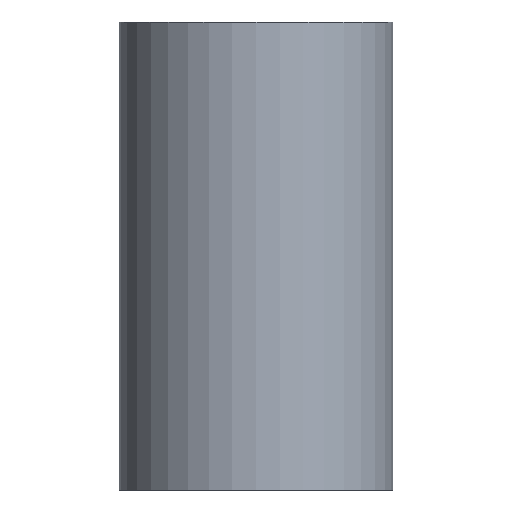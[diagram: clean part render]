
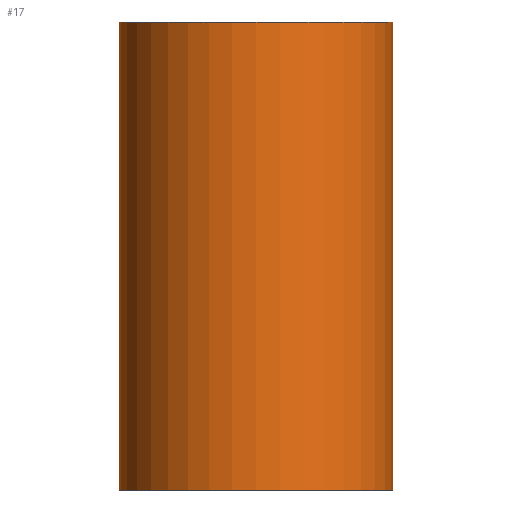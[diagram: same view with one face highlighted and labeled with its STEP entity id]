
A CAD part, front view. The second image highlights one B-rep face of the part: STEP entity #17.
In plain terms, the highlighted cylindrical face has radius 39.5 mm (diameter 79 mm), a full revolution.
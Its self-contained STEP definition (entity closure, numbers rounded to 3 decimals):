
#17 = ADVANCED_FACE('',(#18),#32,.T.);
#18 = FACE_BOUND('',#19,.F.);
#19 = EDGE_LOOP('',(#20,#50,#77,#78));
#20 = ORIENTED_EDGE('',*,*,#21,.T.);
#21 = EDGE_CURVE('',#22,#24,#26,.T.);
#22 = VERTEX_POINT('',#23);
#23 = CARTESIAN_POINT('',(39.5,0.,95.));
#24 = VERTEX_POINT('',#25);
#25 = CARTESIAN_POINT('',(39.5,0.,230.));
#26 = SEAM_CURVE('',#27,(#31,#43),.PCURVE_S1.);
#27 = LINE('',#28,#29);
#28 = CARTESIAN_POINT('',(39.5,0.,95.));
#29 = VECTOR('',#30,1.);
#30 = DIRECTION('',(0.,0.,1.));
#31 = PCURVE('',#32,#37);
#32 = CYLINDRICAL_SURFACE('',#33,39.5);
#33 = AXIS2_PLACEMENT_3D('',#34,#35,#36);
#34 = CARTESIAN_POINT('',(0.,0.,95.));
#35 = DIRECTION('',(-0.,-0.,-1.));
#36 = DIRECTION('',(1.,0.,0.));
#37 = DEFINITIONAL_REPRESENTATION('',(#38),#42);
#38 = LINE('',#39,#40);
#39 = CARTESIAN_POINT('',(-0.,0.));
#40 = VECTOR('',#41,1.);
#41 = DIRECTION('',(-0.,-1.));
#42 = ( GEOMETRIC_REPRESENTATION_CONTEXT(2) 
PARAMETRIC_REPRESENTATION_CONTEXT() REPRESENTATION_CONTEXT('2D SPACE',''
  ) );
#43 = PCURVE('',#32,#44);
#44 = DEFINITIONAL_REPRESENTATION('',(#45),#49);
#45 = LINE('',#46,#47);
#46 = CARTESIAN_POINT('',(-6.283,0.));
#47 = VECTOR('',#48,1.);
#48 = DIRECTION('',(-0.,-1.));
#49 = ( GEOMETRIC_REPRESENTATION_CONTEXT(2) 
PARAMETRIC_REPRESENTATION_CONTEXT() REPRESENTATION_CONTEXT('2D SPACE',''
  ) );
#50 = ORIENTED_EDGE('',*,*,#51,.T.);
#51 = EDGE_CURVE('',#24,#24,#52,.T.);
#52 = SURFACE_CURVE('',#53,(#58,#65),.PCURVE_S1.);
#53 = CIRCLE('',#54,39.5);
#54 = AXIS2_PLACEMENT_3D('',#55,#56,#57);
#55 = CARTESIAN_POINT('',(0.,0.,230.));
#56 = DIRECTION('',(0.,0.,1.));
#57 = DIRECTION('',(1.,0.,0.));
#58 = PCURVE('',#32,#59);
#59 = DEFINITIONAL_REPRESENTATION('',(#60),#64);
#60 = LINE('',#61,#62);
#61 = CARTESIAN_POINT('',(-0.,-135.));
#62 = VECTOR('',#63,1.);
#63 = DIRECTION('',(-1.,0.));
#64 = ( GEOMETRIC_REPRESENTATION_CONTEXT(2) 
PARAMETRIC_REPRESENTATION_CONTEXT() REPRESENTATION_CONTEXT('2D SPACE',''
  ) );
#65 = PCURVE('',#66,#71);
#66 = PLANE('',#67);
#67 = AXIS2_PLACEMENT_3D('',#68,#69,#70);
#68 = CARTESIAN_POINT('',(0.,0.,230.));
#69 = DIRECTION('',(0.,0.,1.));
#70 = DIRECTION('',(1.,0.,-0.));
#71 = DEFINITIONAL_REPRESENTATION('',(#72),#76);
#72 = CIRCLE('',#73,39.5);
#73 = AXIS2_PLACEMENT_2D('',#74,#75);
#74 = CARTESIAN_POINT('',(0.,0.));
#75 = DIRECTION('',(1.,0.));
#76 = ( GEOMETRIC_REPRESENTATION_CONTEXT(2) 
PARAMETRIC_REPRESENTATION_CONTEXT() REPRESENTATION_CONTEXT('2D SPACE',''
  ) );
#77 = ORIENTED_EDGE('',*,*,#21,.F.);
#78 = ORIENTED_EDGE('',*,*,#79,.F.);
#79 = EDGE_CURVE('',#22,#22,#80,.T.);
#80 = SURFACE_CURVE('',#81,(#86,#93),.PCURVE_S1.);
#81 = CIRCLE('',#82,39.5);
#82 = AXIS2_PLACEMENT_3D('',#83,#84,#85);
#83 = CARTESIAN_POINT('',(0.,0.,95.));
#84 = DIRECTION('',(0.,0.,1.));
#85 = DIRECTION('',(1.,0.,0.));
#86 = PCURVE('',#32,#87);
#87 = DEFINITIONAL_REPRESENTATION('',(#88),#92);
#88 = LINE('',#89,#90);
#89 = CARTESIAN_POINT('',(-0.,0.));
#90 = VECTOR('',#91,1.);
#91 = DIRECTION('',(-1.,0.));
#92 = ( GEOMETRIC_REPRESENTATION_CONTEXT(2) 
PARAMETRIC_REPRESENTATION_CONTEXT() REPRESENTATION_CONTEXT('2D SPACE',''
  ) );
#93 = PCURVE('',#94,#99);
#94 = PLANE('',#95);
#95 = AXIS2_PLACEMENT_3D('',#96,#97,#98);
#96 = CARTESIAN_POINT('',(0.,0.,95.));
#97 = DIRECTION('',(0.,0.,1.));
#98 = DIRECTION('',(1.,0.,-0.));
#99 = DEFINITIONAL_REPRESENTATION('',(#100),#104);
#100 = CIRCLE('',#101,39.5);
#101 = AXIS2_PLACEMENT_2D('',#102,#103);
#102 = CARTESIAN_POINT('',(0.,0.));
#103 = DIRECTION('',(1.,0.));
#104 = ( GEOMETRIC_REPRESENTATION_CONTEXT(2) 
PARAMETRIC_REPRESENTATION_CONTEXT() REPRESENTATION_CONTEXT('2D SPACE',''
  ) );
